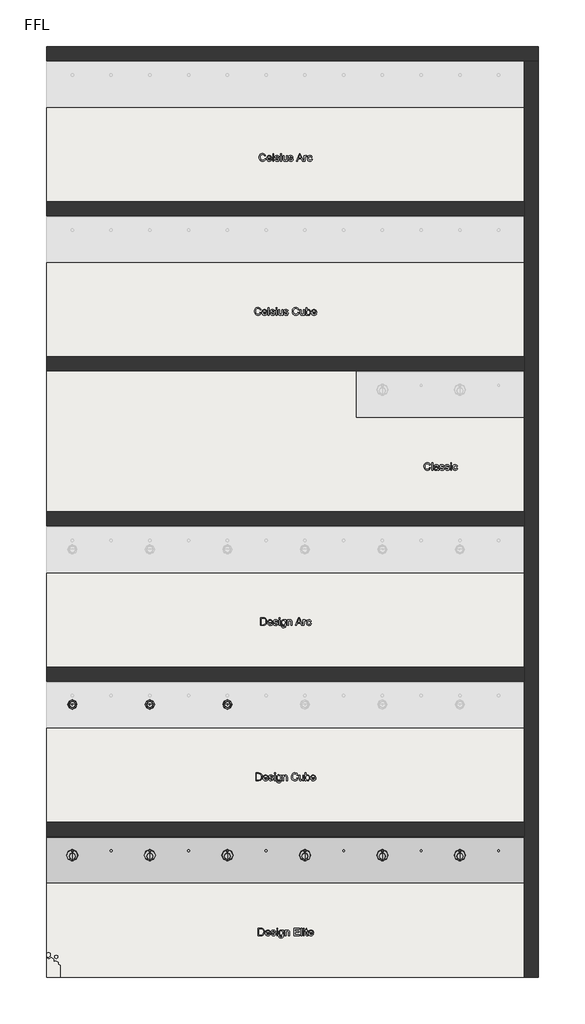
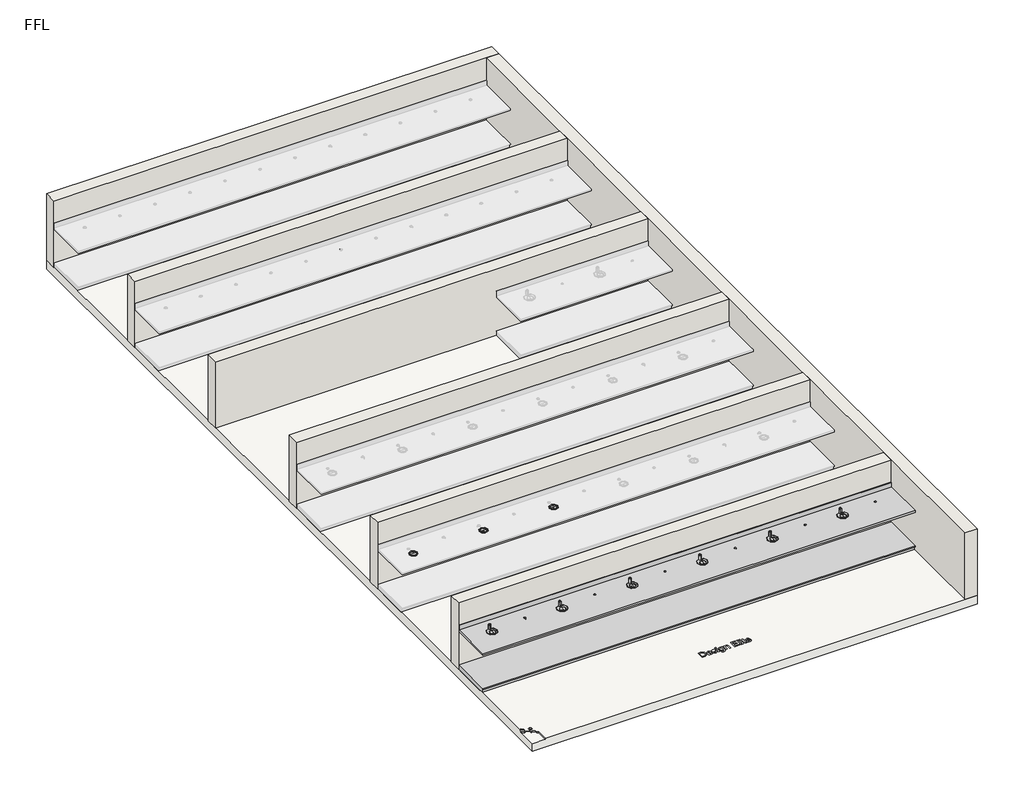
# One storey, part 1 of 5: 9 flow terminals, 7 walls, 2 furniture elements, 1 slab.
"""IFC4 building model written with IfcOpenShell, lengths in millimetres."""

from ifc_helpers import new_model, si_unit, frame, origin, origin_with_axes, place, context, project, spatial, polyline, circle_curve, outline, extrude, faceted_brep, transform, mapped, element, save
from ifc_brep_helpers import plane_surface, revolved_surface, advanced_brep
from components import bright_chrome_13082571, bright_chrome_743c02cf, generic_plinth_900mm_08863006

model = new_model("IFC4")

# Units and contexts
model_context = context("Model", 3, world=origin())
ifc_project = project(units=[si_unit("LENGTHUNIT", "METRE", prefix="MILLI")], contexts=[model_context])

# Site, building, storey
site = spatial("IfcSite", under=ifc_project)
building = spatial("IfcBuilding", under=site)
storey = spatial("IfcBuildingStorey", under=building, Name="FFL", Elevation=0.0)

# Flow terminals
placement = place(None, origin())
bright_chrome_shape = bright_chrome_13082571(model_context)
element("IfcFlowTerminal", 1, ObjectType="z_PlumFixt_Zip Australia_Font and Tap Riser : Bright Chrome", at=placement, inside=storey, context=model_context, shape_type="MappedRepresentation", body=[
    mapped(bright_chrome_shape, transform((-6470.7352929, -1532.0106696, 900.0), x_axis=(1.0, 0.0, 0.0), y_axis=(0.0, 1.0, 0.0), z_axis=(0.0, 0.0, 1.0))),
])
bright_chrome_2_shape = bright_chrome_743c02cf(model_context)
element("IfcFlowTerminal", 2, ObjectType="z_PlumFixt_Zip Australia_Font : Bright Chrome", at=placement, inside=storey, context=model_context, shape_type="MappedRepresentation", body=[
    mapped(bright_chrome_2_shape, transform((-6470.7352929, 1381.2393304, 900.0), x_axis=(1.0, 0.0, 0.0), y_axis=(0.0, 1.0, 0.0), z_axis=(0.0, 0.0, 1.0))),
])
element("IfcFlowTerminal", 3, ObjectType="z_PlumFixt_Zip Australia_Font : Brushed Gold", at=placement, inside=storey, context=model_context, shape_type="MappedRepresentation", body=[
    mapped(bright_chrome_2_shape, transform((-4970.7352929, 1381.2393304, 900.0), x_axis=(1.0, 0.0, 0.0), y_axis=(0.0, 1.0, 0.0), z_axis=(0.0, 0.0, 1.0))),
])
element("IfcFlowTerminal", 4, ObjectType="z_PlumFixt_Zip Australia_Font and Tap Riser : Brushed Gold", at=placement, inside=storey, context=model_context, shape_type="MappedRepresentation", body=[
    mapped(bright_chrome_shape, transform((-4970.7352929, -1532.0106696, 900.0), x_axis=(1.0, 0.0, 0.0), y_axis=(0.0, 1.0, 0.0), z_axis=(0.0, 0.0, 1.0))),
])
element("IfcFlowTerminal", 5, ObjectType="z_PlumFixt_Zip Australia_Font : Brushed Rose Gold", at=placement, inside=storey, context=model_context, shape_type="MappedRepresentation", body=[
    mapped(bright_chrome_2_shape, transform((-3470.7352929, 1381.2393304, 900.0), x_axis=(1.0, 0.0, 0.0), y_axis=(0.0, 1.0, 0.0), z_axis=(0.0, 0.0, 1.0))),
])
element("IfcFlowTerminal", 6, ObjectType="z_PlumFixt_Zip Australia_Font and Tap Riser : Brushed Rose Gold", at=placement, inside=storey, context=model_context, shape_type="MappedRepresentation", body=[
    mapped(bright_chrome_shape, transform((-3470.7352929, -1532.0106696, 900.0), x_axis=(1.0, 0.0, 0.0), y_axis=(0.0, 1.0, 0.0), z_axis=(0.0, 0.0, 1.0))),
])
element("IfcFlowTerminal", 7, ObjectType="z_PlumFixt_Zip Australia_Font and Tap Riser : Gold", at=placement, inside=storey, context=model_context, shape_type="MappedRepresentation", body=[
    mapped(bright_chrome_shape, transform((-1970.7352929, -1532.0106696, 900.0), x_axis=(1.0, 0.0, 0.0), y_axis=(0.0, 1.0, 0.0), z_axis=(0.0, 0.0, 1.0))),
])
element("IfcFlowTerminal", 8, ObjectType="z_PlumFixt_Zip Australia_Font and Tap Riser : Matte Black", at=placement, inside=storey, context=model_context, shape_type="MappedRepresentation", body=[
    mapped(bright_chrome_shape, transform((-470.7352929, -1532.0106696, 900.0), x_axis=(1.0, 0.0, 0.0), y_axis=(0.0, 1.0, 0.0), z_axis=(0.0, 0.0, 1.0))),
])
element("IfcFlowTerminal", 9, ObjectType="z_PlumFixt_Zip Australia_Font and Tap Riser : Platinum", at=placement, inside=storey, context=model_context, shape_type="MappedRepresentation", body=[
    mapped(bright_chrome_shape, transform((1029.2647071, -1532.0106696, 900.0), x_axis=(1.0, 0.0, 0.0), y_axis=(0.0, 1.0, 0.0), z_axis=(0.0, 0.0, 1.0))),
])

# Furniture
element("IfcFurniture", 10, ObjectType="Counter Top : 900mm Depth", at=placement, inside=storey, context=model_context, shape_type="AdvancedBrep", body=[
    advanced_brep(
    [(-6969.7352929, -2051.7606696, 900.0), (2280.2657919, -2051.7606696, 900.0), (2280.2657919, -1170.8106696, 900.0), (-6969.7352929, -1170.8106696, 900.0), (-6469.7352929, -1592.3787097, 900.0), (-6469.7352929, -1484.3787097, 900.0), (-6469.7352929, -1449.2606696, 900.0), (-6469.7352929, -1414.2606696, 900.0), (-5719.7352929, -1449.2606696, 900.0), (-5719.7352929, -1414.2606696, 900.0), (-4969.7352929, -1592.3787097, 900.0), (-4969.7352929, -1484.3787097, 900.0), (-4969.7352929, -1449.2606696, 900.0), (-4969.7352929, -1414.2606696, 900.0), (-4219.7352929, -1449.2606696, 900.0), (-4219.7352929, -1414.2606696, 900.0), (-3469.7352929, -1592.3787097, 900.0), (-3469.7352929, -1484.3787097, 900.0), (-3469.7352929, -1449.2606696, 900.0), (-3469.7352929, -1414.2606696, 900.0), (-2719.7352929, -1449.2606696, 900.0), (-2719.7352929, -1414.2606696, 900.0), (-1969.7352929, -1592.3787097, 900.0), (-1969.7352929, -1484.3787097, 900.0), (-1969.7352929, -1449.2606696, 900.0), (-1969.7352929, -1414.2606696, 900.0), (-1219.7352929, -1449.2606696, 900.0), (-1219.7352929, -1414.2606696, 900.0), (-469.7352929, -1592.3787097, 900.0), (-469.7352929, -1484.3787097, 900.0), (-469.7352929, -1449.2606696, 900.0), (-469.7352929, -1414.2606696, 900.0), (280.2647071, -1449.2606696, 900.0), (280.2647071, -1414.2606696, 900.0), (1030.2647071, -1592.3787097, 900.0), (1030.2647071, -1484.3787097, 900.0), (1030.2647071, -1449.2606696, 900.0), (1030.2647071, -1414.2606696, 900.0), (1780.2647071, -1449.2606696, 900.0), (1780.2647071, -1414.2606696, 900.0), (2280.2657919, -1151.7606696, 860.0), (2280.2657919, -2051.7606696, 860.0), (-6969.7352929, -2051.7606696, 860.0), (-6969.7352929, -1151.7606696, 860.0), (-6469.7352929, -1484.3787097, 860.0), (-6469.7352929, -1592.3787097, 860.0), (-6469.7352929, -1414.2606696, 860.0), (-6469.7352929, -1449.2606696, 860.0), (-5719.7352929, -1414.2606696, 860.0), (-5719.7352929, -1449.2606696, 860.0), (-4969.7352929, -1484.3787097, 860.0), (-4969.7352929, -1592.3787097, 860.0), (-4969.7352929, -1414.2606696, 860.0), (-4969.7352929, -1449.2606696, 860.0), (-4219.7352929, -1414.2606696, 860.0), (-4219.7352929, -1449.2606696, 860.0), (-3469.7352929, -1484.3787097, 860.0), (-3469.7352929, -1592.3787097, 860.0), (-3469.7352929, -1414.2606696, 860.0), (-3469.7352929, -1449.2606696, 860.0), (-2719.7352929, -1414.2606696, 860.0), (-2719.7352929, -1449.2606696, 860.0), (-1969.7352929, -1484.3787097, 860.0), (-1969.7352929, -1592.3787097, 860.0), (-1969.7352929, -1414.2606696, 860.0), (-1969.7352929, -1449.2606696, 860.0), (-1219.7352929, -1414.2606696, 860.0), (-1219.7352929, -1449.2606696, 860.0), (-469.7352929, -1484.3787097, 860.0), (-469.7352929, -1592.3787097, 860.0), (-469.7352929, -1414.2606696, 860.0), (-469.7352929, -1449.2606696, 860.0), (280.2647071, -1414.2606696, 860.0), (280.2647071, -1449.2606696, 860.0), (1030.2647071, -1484.3787097, 860.0), (1030.2647071, -1592.3787097, 860.0), (1030.2647071, -1414.2606696, 860.0), (1030.2647071, -1449.2606696, 860.0), (1780.2647071, -1414.2606696, 860.0), (1780.2647071, -1449.2606696, 860.0), (-6969.7352929, -1151.7606696, 1001.6), (2280.2657919, -1151.7606696, 1001.6), (-6969.7352929, -1170.8106696, 1001.6), (2280.2657919, -1170.8106696, 1001.6)],
    [
        (0, 1),
        (1, 2),
        (2, 3),
        (3, 0),
        (4, 5, circle_curve(frame((-6469.7352929, -1538.3787097, 900.0), z_axis=(0.0, 0.0, -1.0), x_axis=(0.0, -1.0, 0.0)), 54.0)),
        (5, 4, circle_curve(frame((-6469.7352929, -1538.3787097, 900.0), z_axis=(0.0, 0.0, -1.0), x_axis=(0.0, -1.0, 0.0)), 54.0)),
        (6, 7, circle_curve(frame((-6469.7352929, -1431.7606696, 900.0), z_axis=(0.0, 0.0, -1.0), x_axis=(0.0, -1.0, 0.0)), 17.5)),
        (7, 6, circle_curve(frame((-6469.7352929, -1431.7606696, 900.0), z_axis=(0.0, 0.0, -1.0), x_axis=(0.0, -1.0, 0.0)), 17.5)),
        (8, 9, circle_curve(frame((-5719.7352929, -1431.7606696, 900.0), z_axis=(0.0, 0.0, -1.0), x_axis=(0.0, -1.0, 0.0)), 17.5)),
        (9, 8, circle_curve(frame((-5719.7352929, -1431.7606696, 900.0), z_axis=(0.0, 0.0, -1.0), x_axis=(0.0, -1.0, 0.0)), 17.5)),
        (10, 11, circle_curve(frame((-4969.7352929, -1538.3787097, 900.0), z_axis=(0.0, 0.0, -1.0), x_axis=(0.0, -1.0, 0.0)), 54.0)),
        (11, 10, circle_curve(frame((-4969.7352929, -1538.3787097, 900.0), z_axis=(0.0, 0.0, -1.0), x_axis=(0.0, -1.0, 0.0)), 54.0)),
        (12, 13, circle_curve(frame((-4969.7352929, -1431.7606696, 900.0), z_axis=(0.0, 0.0, -1.0), x_axis=(0.0, -1.0, 0.0)), 17.5)),
        (13, 12, circle_curve(frame((-4969.7352929, -1431.7606696, 900.0), z_axis=(0.0, 0.0, -1.0), x_axis=(0.0, -1.0, 0.0)), 17.5)),
        (14, 15, circle_curve(frame((-4219.7352929, -1431.7606696, 900.0), z_axis=(0.0, 0.0, -1.0), x_axis=(0.0, -1.0, 0.0)), 17.5)),
        (15, 14, circle_curve(frame((-4219.7352929, -1431.7606696, 900.0), z_axis=(0.0, 0.0, -1.0), x_axis=(0.0, -1.0, 0.0)), 17.5)),
        (16, 17, circle_curve(frame((-3469.7352929, -1538.3787097, 900.0), z_axis=(0.0, 0.0, -1.0), x_axis=(0.0, -1.0, 0.0)), 54.0)),
        (17, 16, circle_curve(frame((-3469.7352929, -1538.3787097, 900.0), z_axis=(0.0, 0.0, -1.0), x_axis=(0.0, -1.0, 0.0)), 54.0)),
        (18, 19, circle_curve(frame((-3469.7352929, -1431.7606696, 900.0), z_axis=(0.0, 0.0, -1.0), x_axis=(0.0, -1.0, 0.0)), 17.5)),
        (19, 18, circle_curve(frame((-3469.7352929, -1431.7606696, 900.0), z_axis=(0.0, 0.0, -1.0), x_axis=(0.0, -1.0, 0.0)), 17.5)),
        (20, 21, circle_curve(frame((-2719.7352929, -1431.7606696, 900.0), z_axis=(0.0, 0.0, -1.0), x_axis=(0.0, -1.0, 0.0)), 17.5)),
        (21, 20, circle_curve(frame((-2719.7352929, -1431.7606696, 900.0), z_axis=(0.0, 0.0, -1.0), x_axis=(0.0, -1.0, 0.0)), 17.5)),
        (22, 23, circle_curve(frame((-1969.7352929, -1538.3787097, 900.0), z_axis=(0.0, 0.0, -1.0), x_axis=(0.0, -1.0, 0.0)), 54.0)),
        (23, 22, circle_curve(frame((-1969.7352929, -1538.3787097, 900.0), z_axis=(0.0, 0.0, -1.0), x_axis=(0.0, -1.0, 0.0)), 54.0)),
        (24, 25, circle_curve(frame((-1969.7352929, -1431.7606696, 900.0), z_axis=(0.0, 0.0, -1.0), x_axis=(0.0, -1.0, 0.0)), 17.5)),
        (25, 24, circle_curve(frame((-1969.7352929, -1431.7606696, 900.0), z_axis=(0.0, 0.0, -1.0), x_axis=(0.0, -1.0, 0.0)), 17.5)),
        (26, 27, circle_curve(frame((-1219.7352929, -1431.7606696, 900.0), z_axis=(0.0, 0.0, -1.0), x_axis=(0.0, -1.0, 0.0)), 17.5)),
        (27, 26, circle_curve(frame((-1219.7352929, -1431.7606696, 900.0), z_axis=(0.0, 0.0, -1.0), x_axis=(0.0, -1.0, 0.0)), 17.5)),
        (28, 29, circle_curve(frame((-469.7352929, -1538.3787097, 900.0), z_axis=(0.0, 0.0, -1.0), x_axis=(0.0, -1.0, 0.0)), 54.0)),
        (29, 28, circle_curve(frame((-469.7352929, -1538.3787097, 900.0), z_axis=(0.0, 0.0, -1.0), x_axis=(0.0, -1.0, 0.0)), 54.0)),
        (30, 31, circle_curve(frame((-469.7352929, -1431.7606696, 900.0), z_axis=(0.0, 0.0, -1.0), x_axis=(0.0, -1.0, 0.0)), 17.5)),
        (31, 30, circle_curve(frame((-469.7352929, -1431.7606696, 900.0), z_axis=(0.0, 0.0, -1.0), x_axis=(0.0, -1.0, 0.0)), 17.5)),
        (32, 33, circle_curve(frame((280.2647071, -1431.7606696, 900.0), z_axis=(0.0, 0.0, -1.0), x_axis=(0.0, -1.0, 0.0)), 17.5)),
        (33, 32, circle_curve(frame((280.2647071, -1431.7606696, 900.0), z_axis=(0.0, 0.0, -1.0), x_axis=(0.0, -1.0, 0.0)), 17.5)),
        (34, 35, circle_curve(frame((1030.2647071, -1538.3787097, 900.0), z_axis=(0.0, 0.0, -1.0), x_axis=(0.0, -1.0, 0.0)), 54.0)),
        (35, 34, circle_curve(frame((1030.2647071, -1538.3787097, 900.0), z_axis=(0.0, 0.0, -1.0), x_axis=(0.0, -1.0, 0.0)), 54.0)),
        (36, 37, circle_curve(frame((1030.2647071, -1431.7606696, 900.0), z_axis=(0.0, 0.0, -1.0), x_axis=(0.0, -1.0, 0.0)), 17.5)),
        (37, 36, circle_curve(frame((1030.2647071, -1431.7606696, 900.0), z_axis=(0.0, 0.0, -1.0), x_axis=(0.0, -1.0, 0.0)), 17.5)),
        (38, 39, circle_curve(frame((1780.2647071, -1431.7606696, 900.0), z_axis=(0.0, 0.0, -1.0), x_axis=(0.0, -1.0, 0.0)), 17.5)),
        (39, 38, circle_curve(frame((1780.2647071, -1431.7606696, 900.0), z_axis=(0.0, 0.0, -1.0), x_axis=(0.0, -1.0, 0.0)), 17.5)),
        (40, 41),
        (41, 42),
        (42, 43),
        (43, 40),
        (44, 45, circle_curve(frame((-6469.7352929, -1538.3787097, 860.0), z_axis=(0.0, 0.0, 1.0), x_axis=(0.0, -1.0, 0.0)), 54.0)),
        (45, 44, circle_curve(frame((-6469.7352929, -1538.3787097, 860.0), z_axis=(0.0, 0.0, 1.0), x_axis=(0.0, -1.0, 0.0)), 54.0)),
        (46, 47, circle_curve(frame((-6469.7352929, -1431.7606696, 860.0), z_axis=(0.0, 0.0, 1.0), x_axis=(0.0, -1.0, 0.0)), 17.5)),
        (47, 46, circle_curve(frame((-6469.7352929, -1431.7606696, 860.0), z_axis=(0.0, 0.0, 1.0), x_axis=(0.0, -1.0, 0.0)), 17.5)),
        (48, 49, circle_curve(frame((-5719.7352929, -1431.7606696, 860.0), z_axis=(0.0, 0.0, 1.0), x_axis=(0.0, -1.0, 0.0)), 17.5)),
        (49, 48, circle_curve(frame((-5719.7352929, -1431.7606696, 860.0), z_axis=(0.0, 0.0, 1.0), x_axis=(0.0, -1.0, 0.0)), 17.5)),
        (50, 51, circle_curve(frame((-4969.7352929, -1538.3787097, 860.0), z_axis=(0.0, 0.0, 1.0), x_axis=(0.0, -1.0, 0.0)), 54.0)),
        (51, 50, circle_curve(frame((-4969.7352929, -1538.3787097, 860.0), z_axis=(0.0, 0.0, 1.0), x_axis=(0.0, -1.0, 0.0)), 54.0)),
        (52, 53, circle_curve(frame((-4969.7352929, -1431.7606696, 860.0), z_axis=(0.0, 0.0, 1.0), x_axis=(0.0, -1.0, 0.0)), 17.5)),
        (53, 52, circle_curve(frame((-4969.7352929, -1431.7606696, 860.0), z_axis=(0.0, 0.0, 1.0), x_axis=(0.0, -1.0, 0.0)), 17.5)),
        (54, 55, circle_curve(frame((-4219.7352929, -1431.7606696, 860.0), z_axis=(0.0, 0.0, 1.0), x_axis=(0.0, -1.0, 0.0)), 17.5)),
        (55, 54, circle_curve(frame((-4219.7352929, -1431.7606696, 860.0), z_axis=(0.0, 0.0, 1.0), x_axis=(0.0, -1.0, 0.0)), 17.5)),
        (56, 57, circle_curve(frame((-3469.7352929, -1538.3787097, 860.0), z_axis=(0.0, 0.0, 1.0), x_axis=(0.0, -1.0, 0.0)), 54.0)),
        (57, 56, circle_curve(frame((-3469.7352929, -1538.3787097, 860.0), z_axis=(0.0, 0.0, 1.0), x_axis=(0.0, -1.0, 0.0)), 54.0)),
        (58, 59, circle_curve(frame((-3469.7352929, -1431.7606696, 860.0), z_axis=(0.0, 0.0, 1.0), x_axis=(0.0, -1.0, 0.0)), 17.5)),
        (59, 58, circle_curve(frame((-3469.7352929, -1431.7606696, 860.0), z_axis=(0.0, 0.0, 1.0), x_axis=(0.0, -1.0, 0.0)), 17.5)),
        (60, 61, circle_curve(frame((-2719.7352929, -1431.7606696, 860.0), z_axis=(0.0, 0.0, 1.0), x_axis=(0.0, -1.0, 0.0)), 17.5)),
        (61, 60, circle_curve(frame((-2719.7352929, -1431.7606696, 860.0), z_axis=(0.0, 0.0, 1.0), x_axis=(0.0, -1.0, 0.0)), 17.5)),
        (62, 63, circle_curve(frame((-1969.7352929, -1538.3787097, 860.0), z_axis=(0.0, 0.0, 1.0), x_axis=(0.0, -1.0, 0.0)), 54.0)),
        (63, 62, circle_curve(frame((-1969.7352929, -1538.3787097, 860.0), z_axis=(0.0, 0.0, 1.0), x_axis=(0.0, -1.0, 0.0)), 54.0)),
        (64, 65, circle_curve(frame((-1969.7352929, -1431.7606696, 860.0), z_axis=(0.0, 0.0, 1.0), x_axis=(0.0, -1.0, 0.0)), 17.5)),
        (65, 64, circle_curve(frame((-1969.7352929, -1431.7606696, 860.0), z_axis=(0.0, 0.0, 1.0), x_axis=(0.0, -1.0, 0.0)), 17.5)),
        (66, 67, circle_curve(frame((-1219.7352929, -1431.7606696, 860.0), z_axis=(0.0, 0.0, 1.0), x_axis=(0.0, -1.0, 0.0)), 17.5)),
        (67, 66, circle_curve(frame((-1219.7352929, -1431.7606696, 860.0), z_axis=(0.0, 0.0, 1.0), x_axis=(0.0, -1.0, 0.0)), 17.5)),
        (68, 69, circle_curve(frame((-469.7352929, -1538.3787097, 860.0), z_axis=(0.0, 0.0, 1.0), x_axis=(0.0, -1.0, 0.0)), 54.0)),
        (69, 68, circle_curve(frame((-469.7352929, -1538.3787097, 860.0), z_axis=(0.0, 0.0, 1.0), x_axis=(0.0, -1.0, 0.0)), 54.0)),
        (70, 71, circle_curve(frame((-469.7352929, -1431.7606696, 860.0), z_axis=(0.0, 0.0, 1.0), x_axis=(0.0, -1.0, 0.0)), 17.5)),
        (71, 70, circle_curve(frame((-469.7352929, -1431.7606696, 860.0), z_axis=(0.0, 0.0, 1.0), x_axis=(0.0, -1.0, 0.0)), 17.5)),
        (72, 73, circle_curve(frame((280.2647071, -1431.7606696, 860.0), z_axis=(0.0, 0.0, 1.0), x_axis=(0.0, -1.0, 0.0)), 17.5)),
        (73, 72, circle_curve(frame((280.2647071, -1431.7606696, 860.0), z_axis=(0.0, 0.0, 1.0), x_axis=(0.0, -1.0, 0.0)), 17.5)),
        (74, 75, circle_curve(frame((1030.2647071, -1538.3787097, 860.0), z_axis=(0.0, 0.0, 1.0), x_axis=(0.0, -1.0, 0.0)), 54.0)),
        (75, 74, circle_curve(frame((1030.2647071, -1538.3787097, 860.0), z_axis=(0.0, 0.0, 1.0), x_axis=(0.0, -1.0, 0.0)), 54.0)),
        (76, 77, circle_curve(frame((1030.2647071, -1431.7606696, 860.0), z_axis=(0.0, 0.0, 1.0), x_axis=(0.0, -1.0, 0.0)), 17.5)),
        (77, 76, circle_curve(frame((1030.2647071, -1431.7606696, 860.0), z_axis=(0.0, 0.0, 1.0), x_axis=(0.0, -1.0, 0.0)), 17.5)),
        (78, 79, circle_curve(frame((1780.2647071, -1431.7606696, 860.0), z_axis=(0.0, 0.0, 1.0), x_axis=(0.0, -1.0, 0.0)), 17.5)),
        (79, 78, circle_curve(frame((1780.2647071, -1431.7606696, 860.0), z_axis=(0.0, 0.0, 1.0), x_axis=(0.0, -1.0, 0.0)), 17.5)),
        (43, 80),
        (80, 81),
        (81, 40),
        (3, 82),
        (82, 80),
        (42, 0),
        (41, 1),
        (81, 83),
        (83, 2),
        (82, 83),
        (44, 5),
        (4, 45),
        (46, 7),
        (6, 47),
        (48, 9),
        (8, 49),
        (50, 11),
        (10, 51),
        (52, 13),
        (12, 53),
        (54, 15),
        (14, 55),
        (56, 17),
        (16, 57),
        (58, 19),
        (18, 59),
        (60, 21),
        (20, 61),
        (62, 23),
        (22, 63),
        (64, 25),
        (24, 65),
        (66, 27),
        (26, 67),
        (68, 29),
        (28, 69),
        (70, 31),
        (30, 71),
        (72, 33),
        (32, 73),
        (74, 35),
        (34, 75),
        (76, 37),
        (36, 77),
        (78, 39),
        (38, 79),
    ],
    [
        plane_surface(frame((-6969.7352929, -1151.7606696, 900.0), z_axis=(0.0, 0.0, 1.0), x_axis=(-1.0, 0.0, 0.0))),
        plane_surface(frame((-6969.7352929, -1151.7606696, 860.0), z_axis=(0.0, 0.0, -1.0), x_axis=(1.0, 0.0, 0.0))),
        plane_surface(frame((2280.2657919, -1151.7606696, 900.0), z_axis=(0.0, 1.0, 0.0), x_axis=(0.0, 0.0, -1.0))),
        plane_surface(frame((-6969.7352929, -1151.7606696, 900.0), z_axis=(-1.0, 0.0, 0.0), x_axis=(0.0, 0.0, -1.0))),
        plane_surface(frame((-6969.7352929, -2051.7606696, 900.0), z_axis=(0.0, -1.0, 0.0), x_axis=(0.0, 0.0, -1.0))),
        plane_surface(frame((2280.2657919, -2051.7606696, 900.0), z_axis=(1.0, 0.0, 0.0), x_axis=(0.0, 0.0, -1.0))),
        plane_surface(frame((-6969.7352929, -1151.7606696, 1001.6), z_axis=(0.0, 0.0, 1.0), x_axis=(0.0, -1.0, 0.0))),
        plane_surface(frame((-6969.7352929, -1170.8106696, 1001.6), z_axis=(0.0, -1.0, 0.0), x_axis=(0.0, 0.0, -1.0))),
        revolved_surface(polyline([(-6469.7352929, -1592.3787097, 900.0), (-6469.7352929, -1592.3787097, 860.0)]), (-6469.7352929, -1538.3787097, 700.0), (0.0, 0.0, 1.0)),
        revolved_surface(polyline([(-6469.7352929, -1449.2606696, 900.0), (-6469.7352929, -1449.2606696, 860.0)]), (-6469.7352929, -1431.7606696, 700.0), (0.0, 0.0, 1.0)),
        revolved_surface(polyline([(-5719.7352929, -1449.2606696, 900.0), (-5719.7352929, -1449.2606696, 860.0)]), (-5719.7352929, -1431.7606696, 700.0), (0.0, 0.0, 1.0)),
        revolved_surface(polyline([(-4969.7352929, -1592.3787097, 900.0), (-4969.7352929, -1592.3787097, 860.0)]), (-4969.7352929, -1538.3787097, 700.0), (0.0, 0.0, 1.0)),
        revolved_surface(polyline([(-4969.7352929, -1449.2606696, 900.0), (-4969.7352929, -1449.2606696, 860.0)]), (-4969.7352929, -1431.7606696, 700.0), (0.0, 0.0, 1.0)),
        revolved_surface(polyline([(-4219.7352929, -1449.2606696, 900.0), (-4219.7352929, -1449.2606696, 860.0)]), (-4219.7352929, -1431.7606696, 700.0), (0.0, 0.0, 1.0)),
        revolved_surface(polyline([(-3469.7352929, -1592.3787097, 900.0), (-3469.7352929, -1592.3787097, 860.0)]), (-3469.7352929, -1538.3787097, 700.0), (0.0, 0.0, 1.0)),
        revolved_surface(polyline([(-3469.7352929, -1449.2606696, 900.0), (-3469.7352929, -1449.2606696, 860.0)]), (-3469.7352929, -1431.7606696, 700.0), (0.0, 0.0, 1.0)),
        revolved_surface(polyline([(-2719.7352929, -1449.2606696, 900.0), (-2719.7352929, -1449.2606696, 860.0)]), (-2719.7352929, -1431.7606696, 700.0), (0.0, 0.0, 1.0)),
        revolved_surface(polyline([(-1969.7352929, -1592.3787097, 900.0), (-1969.7352929, -1592.3787097, 860.0)]), (-1969.7352929, -1538.3787097, 700.0), (0.0, 0.0, 1.0)),
        revolved_surface(polyline([(-1969.7352929, -1449.2606696, 900.0), (-1969.7352929, -1449.2606696, 860.0)]), (-1969.7352929, -1431.7606696, 700.0), (0.0, 0.0, 1.0)),
        revolved_surface(polyline([(-1219.7352929, -1449.2606696, 900.0), (-1219.7352929, -1449.2606696, 860.0)]), (-1219.7352929, -1431.7606696, 700.0), (0.0, 0.0, 1.0)),
        revolved_surface(polyline([(-469.7352929, -1592.3787097, 900.0), (-469.7352929, -1592.3787097, 860.0)]), (-469.7352929, -1538.3787097, 700.0), (0.0, 0.0, 1.0)),
        revolved_surface(polyline([(-469.7352929, -1449.2606696, 900.0), (-469.7352929, -1449.2606696, 860.0)]), (-469.7352929, -1431.7606696, 700.0), (0.0, 0.0, 1.0)),
        revolved_surface(polyline([(280.2647071, -1449.2606696, 900.0), (280.2647071, -1449.2606696, 860.0)]), (280.2647071, -1431.7606696, 700.0), (0.0, 0.0, 1.0)),
        revolved_surface(polyline([(1030.2647071, -1592.3787097, 900.0), (1030.2647071, -1592.3787097, 860.0)]), (1030.2647071, -1538.3787097, 700.0), (0.0, 0.0, 1.0)),
        revolved_surface(polyline([(1030.2647071, -1449.2606696, 900.0), (1030.2647071, -1449.2606696, 860.0)]), (1030.2647071, -1431.7606696, 700.0), (0.0, 0.0, 1.0)),
        revolved_surface(polyline([(1780.2647071, -1449.2606696, 900.0), (1780.2647071, -1449.2606696, 860.0)]), (1780.2647071, -1431.7606696, 700.0), (0.0, 0.0, 1.0)),
    ],
    [
        (0, [[1, 2, 3, 4], [5, 6], [7, 8], [9, 10], [11, 12], [13, 14], [15, 16], [17, 18], [19, 20], [21, 22], [23, 24], [25, 26], [27, 28], [29, 30], [31, 32], [33, 34], [35, 36], [37, 38], [39, 40]]),
        (1, [[41, 42, 43, 44], [45, 46], [47, 48], [49, 50], [51, 52], [53, 54], [55, 56], [57, 58], [59, 60], [61, 62], [63, 64], [65, 66], [67, 68], [69, 70], [71, 72], [73, 74], [75, 76], [77, 78], [79, 80]]),
        (2, [[-44, 81, 82, 83]]),
        (3, [[-4, 84, 85, -81, -43, 86]]),
        (4, [[-1, -86, -42, 87]]),
        (5, [[-2, -87, -41, -83, 88, 89]]),
        (6, [[-82, -85, 90, -88]]),
        (7, [[-3, -89, -90, -84]]),
        (8, [[91, -5, 92, -45]]),
        (8, [[-91, -46, -92, -6]]),
        (9, [[93, -7, 94, -47]]),
        (9, [[-93, -48, -94, -8]]),
        (10, [[95, -9, 96, -49]]),
        (10, [[-95, -50, -96, -10]]),
        (11, [[97, -11, 98, -51]]),
        (11, [[-97, -52, -98, -12]]),
        (12, [[99, -13, 100, -53]]),
        (12, [[-99, -54, -100, -14]]),
        (13, [[101, -15, 102, -55]]),
        (13, [[-101, -56, -102, -16]]),
        (14, [[103, -17, 104, -57]]),
        (14, [[-103, -58, -104, -18]]),
        (15, [[105, -19, 106, -59]]),
        (15, [[-105, -60, -106, -20]]),
        (16, [[107, -21, 108, -61]]),
        (16, [[-107, -62, -108, -22]]),
        (17, [[109, -23, 110, -63]]),
        (17, [[-109, -64, -110, -24]]),
        (18, [[111, -25, 112, -65]]),
        (18, [[-111, -66, -112, -26]]),
        (19, [[113, -27, 114, -67]]),
        (19, [[-113, -68, -114, -28]]),
        (20, [[115, -29, 116, -69]]),
        (20, [[-115, -70, -116, -30]]),
        (21, [[117, -31, 118, -71]]),
        (21, [[-117, -72, -118, -32]]),
        (22, [[119, -33, 120, -73]]),
        (22, [[-119, -74, -120, -34]]),
        (23, [[121, -35, 122, -75]]),
        (23, [[-121, -76, -122, -36]]),
        (24, [[123, -37, 124, -77]]),
        (24, [[-123, -78, -124, -38]]),
        (25, [[125, -39, 126, -79]]),
        (25, [[-125, -80, -126, -40]]),
    ],
),
])
generic_plinth_900mm_shape = generic_plinth_900mm_08863006(model_context)
element("IfcFurniture", 11, ObjectType="Generic Plinth : 900mm", at=placement, inside=storey, context=model_context, shape_type="MappedRepresentation", body=[
    mapped(generic_plinth_900mm_shape, transform((-2363.4724554, -1151.7606696, 0.0), x_axis=(1.0, 0.0, 0.0), y_axis=(0.0, 1.0, 0.0), z_axis=(0.0, 0.0, 1.0))),
])

# Slab
element("IfcSlab", 12, ObjectType="Generic 200mm", at=placement, inside=storey, context=model_context, shape_type="Brep", body=[
    faceted_brep([(2550.2657919, 14118.2393304, -200.0), (2550.2657919, -3881.7606696, -200.0), (-6969.7352929, -3881.7606696, -200.0), (-6969.7352929, 14118.2393304, -200.0), (2550.2657919, -3881.7606696, 0.0), (2550.2657919, 14118.2393304, 0.0), (-6969.7352929, 14118.2393304, 0.0), (-6969.7352929, -3411.7415826, 0.0), (-6932.7223575, -3390.3721543, 0.0), (-6886.3702024, -3417.1335835, 0.0), (-6886.3702024, -3472.3052169, 0.0), (-6932.7223575, -3499.066646, 0.0), (-6969.7352929, -3477.6972178, 0.0), (-6969.7352929, -3490.7154592, 0.0), (-6922.7403751, -3517.8479876, 0.0), (-6876.7358496, -3491.2872624, 0.0), (-6817.5048451, -3525.4842988, 0.0), (-6817.5048451, -3572.1225285, 0.0), (-6788.2362051, -3555.2242713, 0.0), (-6733.5871808, -3586.7759002, 0.0), (-6733.5871808, -3625.8867441, 0.0), (-6698.9461647, -3645.8867441, 0.0), (-6698.9461647, -3881.7606696, 0.0), (-6782.6159207, -3448.2582527, 0.0), (-6751.8110434, -3466.0434569, 0.0), (-6751.8110434, -3498.6512518, 0.0), (-6782.6159207, -3516.436456, 0.0), (-6813.420798, -3498.6512518, 0.0), (-6813.420798, -3466.0434569, 0.0), (-6698.9461647, -3881.7606696, -25.0), (-6969.7352929, -3881.7606696, -25.0), (-6969.7352929, -3490.704556, -25.0), (-6969.7352929, -3477.6972178, -25.0), (-6969.7352929, -3411.7415826, -25.0), (-6698.9461647, -3645.8867441, -25.0), (-6733.5871808, -3625.8867441, -25.0), (-6733.5871808, -3586.7759002, -25.0), (-6788.2362051, -3555.2242713, -25.0), (-6817.5048451, -3572.1225285, -25.0), (-6817.5048451, -3525.4842988, -25.0), (-6876.7358496, -3491.2872624, -25.0), (-6922.7403751, -3517.8479876, -25.0), (-6886.3702024, -3417.1335835, -25.0), (-6932.7223575, -3390.3721543, -25.0), (-6932.7223575, -3499.066646, -25.0), (-6886.3702024, -3472.3052169, -25.0), (-6751.8110434, -3466.0434569, -25.0), (-6782.6159207, -3448.2582527, -25.0), (-6813.420798, -3466.0434569, -25.0), (-6813.420798, -3498.6512518, -25.0), (-6782.6159207, -3516.436456, -25.0), (-6751.8110434, -3498.6512518, -25.0)], [[[0, 1, 2, 3]], [[4, 5, 6, 7, 8, 9, 10, 11, 12, 13, 14, 15, 16, 17, 18, 19, 20, 21, 22], [23, 24, 25, 26, 27, 28]], [[1, 0, 5, 4]], [[2, 1, 4, 22, 29, 30]], [[3, 2, 30, 31, 13, 12, 32, 33, 7, 6]], [[0, 3, 6, 5]], [[34, 35, 36, 37, 38, 39, 40, 41, 31, 30, 29]], [[42, 43, 33, 32, 44, 45]], [[46, 47, 48, 49, 50, 51]], [[34, 29, 22, 21]], [[35, 34, 21, 20]], [[36, 35, 20, 19]], [[37, 36, 19, 18]], [[38, 37, 18, 17]], [[39, 38, 17, 16]], [[40, 39, 16, 15]], [[41, 40, 15, 14]], [[31, 41, 14, 13]], [[43, 42, 9, 8]], [[33, 43, 8, 7]], [[44, 32, 12, 11]], [[45, 44, 11, 10]], [[42, 45, 10, 9]], [[47, 46, 24, 23]], [[48, 47, 23, 28]], [[49, 48, 28, 27]], [[50, 49, 27, 26]], [[51, 50, 26, 25]], [[46, 51, 25, 24]]]),
])

# Walls
element("IfcWall", 13, ObjectType="Double brick - 270", at=placement, inside=storey, context=model_context, shape_type="SweptSolid", body=[
    extrude(outline(polyline([(2280.2657919, 10848.2393304), (-6969.7352929, 10848.2393304), (-6969.7352929, 11118.2393304), (2280.2657919, 11118.2393304), (2280.2657919, 10848.2393304)])), origin_with_axes(), (0.0, 0.0, 1.0), 1500.0),
])
element("IfcWall", 14, ObjectType="Double brick - 270", at=placement, inside=storey, context=model_context, shape_type="Brep", body=[
    faceted_brep([(-6969.7352929, 13848.2393304, 0.0), (2280.2657919, 13848.2393304, 0.0), (2550.2657919, 13848.2393304, 0.0), (2550.2657919, 13848.2393304, 1500.0), (2280.2657919, 13848.2393304, 1500.0), (-6969.7352929, 13848.2393304, 1500.0), (-6969.7352929, 14118.2393304, 0.0), (-6969.7352929, 14118.2393304, 1500.0), (2550.2657919, 14118.2393304, 1500.0), (2550.2657919, 14118.2393304, 0.0)], [[[0, 1, 2, 3, 4, 5]], [[6, 7, 8, 9]], [[2, 1, 0, 6, 9]], [[5, 4, 3, 8, 7]], [[0, 5, 7, 6]], [[3, 2, 9, 8]]]),
])
element("IfcWall", 15, ObjectType="Double brick - 270", at=placement, inside=storey, context=model_context, shape_type="Brep", body=[
    faceted_brep([(2550.2657919, -3881.7606696, 0.0), (2550.2657919, 13848.2393304, 0.0), (2550.2657919, 13848.2393304, 1500.0), (2550.2657919, -3881.7606696, 1500.0), (2280.2657919, -3881.7606696, 0.0), (2280.2657919, -3881.7606696, 1500.0), (2280.2657919, -1151.7606696, 1500.0), (2280.2657919, -881.7606696, 1500.0), (2280.2657919, 1848.2393304, 1500.0), (2280.2657919, 2118.2393304, 1500.0), (2280.2657919, 4848.2393304, 1500.0), (2280.2657919, 5118.2393304, 1500.0), (2280.2657919, 7848.2393304, 1500.0), (2280.2657919, 8118.2393304, 1500.0), (2280.2657919, 10848.2393304, 1500.0), (2280.2657919, 11118.2393304, 1500.0), (2280.2657919, 13848.2393304, 1500.0), (2280.2657919, 13848.2393304, 0.0), (2280.2657919, 11118.2393304, 0.0), (2280.2657919, 10848.2393304, 0.0), (2280.2657919, 8118.2393304, 0.0), (2280.2657919, 7848.2393304, 0.0), (2280.2657919, 5118.2393304, 0.0), (2280.2657919, 4848.2393304, 0.0), (2280.2657919, 2118.2393304, 0.0), (2280.2657919, 1848.2393304, 0.0), (2280.2657919, -881.7606696, 0.0), (2280.2657919, -1151.7606696, 0.0)], [[[0, 1, 2, 3]], [[4, 5, 6, 7, 8, 9, 10, 11, 12, 13, 14, 15, 16, 17, 18, 19, 20, 21, 22, 23, 24, 25, 26, 27]], [[1, 0, 4, 27, 26, 25, 24, 23, 22, 21, 20, 19, 18, 17]], [[3, 2, 16, 15, 14, 13, 12, 11, 10, 9, 8, 7, 6, 5]], [[0, 3, 5, 4]], [[2, 1, 17, 16]]]),
])
element("IfcWall", 16, ObjectType="Double brick - 270", at=placement, inside=storey, context=model_context, shape_type="SweptSolid", body=[
    extrude(outline(polyline([(2280.2657919, 7848.2393304), (-6969.7352929, 7848.2393304), (-6969.7352929, 8118.2393304), (2280.2657919, 8118.2393304), (2280.2657919, 7848.2393304)])), origin_with_axes(), (0.0, 0.0, 1.0), 1500.0),
])
element("IfcWall", 17, ObjectType="Double brick - 270", at=placement, inside=storey, context=model_context, shape_type="SweptSolid", body=[
    extrude(outline(polyline([(2280.2657919, 4848.2393304), (-6969.7352929, 4848.2393304), (-6969.7352929, 5118.2393304), (2280.2657919, 5118.2393304), (2280.2657919, 4848.2393304)])), origin_with_axes(), (0.0, 0.0, 1.0), 1500.0),
])
element("IfcWall", 18, ObjectType="Double brick - 270", at=placement, inside=storey, context=model_context, shape_type="SweptSolid", body=[
    extrude(outline(polyline([(2280.2657919, 1848.2393304), (-6969.7352929, 1848.2393304), (-6969.7352929, 2118.2393304), (2280.2657919, 2118.2393304), (2280.2657919, 1848.2393304)])), origin_with_axes(), (0.0, 0.0, 1.0), 1500.0),
])
element("IfcWall", 19, ObjectType="Double brick - 270", at=placement, inside=storey, context=model_context, shape_type="SweptSolid", body=[
    extrude(outline(polyline([(2280.2657919, -1151.7606696), (-6969.7352929, -1151.7606696), (-6969.7352929, -881.7606696), (2280.2657919, -881.7606696), (2280.2657919, -1151.7606696)])), origin_with_axes(), (0.0, 0.0, 1.0), 1500.0),
])

save(model, "model.ifc")
